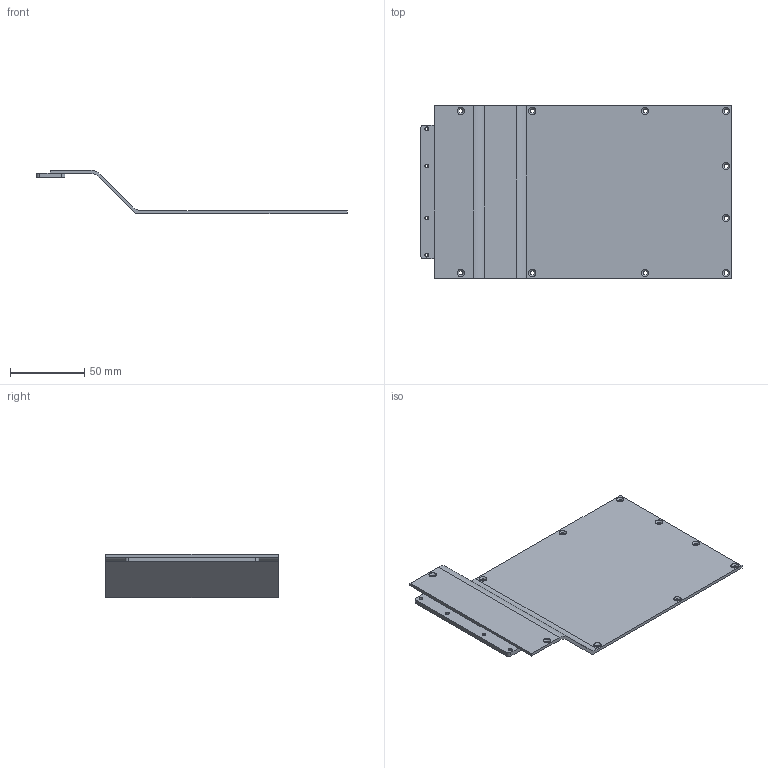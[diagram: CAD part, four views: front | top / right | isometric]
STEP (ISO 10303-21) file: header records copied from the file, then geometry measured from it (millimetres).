
FILE_DESCRIPTION (( 'STEP AP203' ), '1' );
FILE_NAME ('蟀諉碟极10.STEP', '2026-09-24T07:20:16', ( '' ), ( '' ), 'SwSTEP 2.0', 'SolidWorks 2016', '' );
FILE_SCHEMA (( 'CONFIG_CONTROL_DESIGN' ));
Length unit declared in the file: millimetre
Products named in the file (1): 蟀諉碟极10
Bounding box: 209 x 116 x 29.5 mm (x, y, z)
Volume: 54156.2 mm3; surface area: 52533.5 mm2
Topology: 1 solids, 1 shells, 99 faces, 241 edges, 144 vertices
Faces by surface type: cylinder 55, cone 28, plane 16
Entity records: 3026 total; most frequent: DIRECTION 559, CARTESIAN_POINT 485, ORIENTED_EDGE 482, EDGE_CURVE 241, AXIS2_PLACEMENT_3D 218, VERTEX_POINT 144, EDGE_LOOP 127, LINE 123
